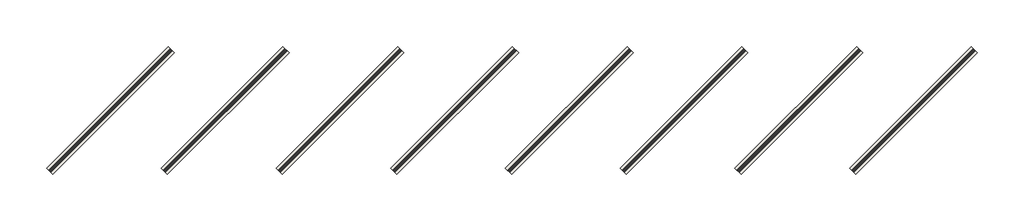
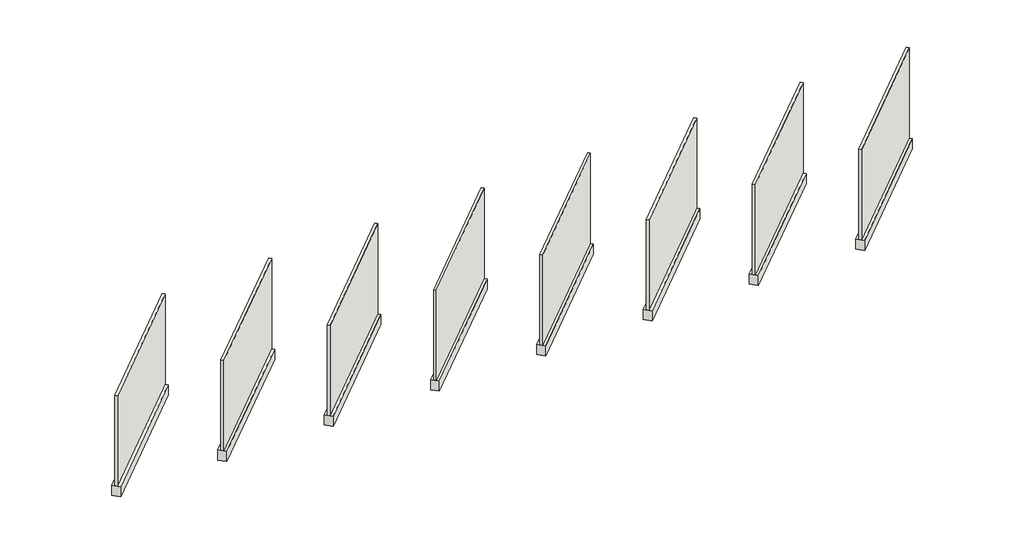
# One storey: 16 walls.
"""IFC4 building model written with IfcOpenShell, lengths in millimetres."""

from ifc_helpers import new_model, si_unit, frame, origin, origin_with_axes, place, context, project, spatial, polyline, outline, extrude, element, save

model = new_model("IFC4")

# Units and contexts
model_context = context("Model", 3, world=origin())
ifc_project = project(units=[si_unit("LENGTHUNIT", "METRE", prefix="MILLI")], contexts=[model_context])

# Site, building, storey
site = spatial("IfcSite", under=ifc_project)
building = spatial("IfcBuilding", under=site)
storey = spatial("IfcBuildingStorey", under=building, Name="Cobble Pioneer Stone", Elevation=0.0)

# Walls
placement = place(None, origin())
element("IfcWall", 1, ObjectType="Colorado_Cobble", at=placement, inside=storey, context=model_context, shape_type="SweptSolid", body=[
    extrude(outline(polyline([(-14638.5068952, 7411.09097), (-17871.3990988, 4178.1987664), (-17925.2806355, 4232.0803031), (-14692.388432, 7464.9725067), (-14638.5068952, 7411.09097)])), frame((0.0, 0.0, 304.8), z_axis=(0.0, 0.0, 1.0), x_axis=(1.0, 0.0, 0.0)), (0.0, 0.0, 1.0), 2743.2),
])
element("IfcWall", 2, ObjectType="Flatwood_Cobble", at=placement, inside=storey, context=model_context, shape_type="SweptSolid", body=[
    extrude(outline(polyline([(-11590.5068952, 7411.09097), (-14823.3990988, 4178.1987664), (-14877.2806355, 4232.0803031), (-11644.388432, 7464.9725067), (-11590.5068952, 7411.09097)])), frame((0.0, 0.0, 304.8), z_axis=(0.0, 0.0, 1.0), x_axis=(1.0, 0.0, 0.0)), (0.0, 0.0, 1.0), 2743.2),
])
element("IfcWall", 3, ObjectType="Mojave_Cobble", at=placement, inside=storey, context=model_context, shape_type="SweptSolid", body=[
    extrude(outline(polyline([(-8542.5068952, 7411.09097), (-11775.3990988, 4178.1987664), (-11829.2806355, 4232.0803031), (-8596.388432, 7464.9725067), (-8542.5068952, 7411.09097)])), frame((0.0, 0.0, 304.8), z_axis=(0.0, 0.0, 1.0), x_axis=(1.0, 0.0, 0.0)), (0.0, 0.0, 1.0), 2743.2),
])
element("IfcWall", 4, ObjectType="Nappanee_Cobble", at=placement, inside=storey, context=model_context, shape_type="SweptSolid", body=[
    extrude(outline(polyline([(-5494.5068952, 7411.09097), (-8727.3990988, 4178.1987664), (-8781.2806355, 4232.0803031), (-5548.388432, 7464.9725067), (-5494.5068952, 7411.09097)])), frame((0.0, 0.0, 304.8), z_axis=(0.0, 0.0, 1.0), x_axis=(1.0, 0.0, 0.0)), (0.0, 0.0, 1.0), 2743.2),
])
element("IfcWall", 5, ObjectType="Sedona_Cobble", at=placement, inside=storey, context=model_context, shape_type="SweptSolid", body=[
    extrude(outline(polyline([(-2446.5068952, 7411.09097), (-5679.3990988, 4178.1987664), (-5733.2806355, 4232.0803031), (-2500.388432, 7464.9725067), (-2446.5068952, 7411.09097)])), frame((0.0, 0.0, 304.8), z_axis=(0.0, 0.0, 1.0), x_axis=(1.0, 0.0, 0.0)), (0.0, 0.0, 1.0), 2743.2),
])
element("IfcWall", 6, ObjectType="Blue Ridge_Cobble", at=placement, inside=storey, context=model_context, shape_type="SweptSolid", body=[
    extrude(outline(polyline([(-20734.5068952, 7411.09097), (-23967.3990988, 4178.1987664), (-24021.2806355, 4232.0803031), (-20788.388432, 7464.9725067), (-20734.5068952, 7411.09097)])), frame((0.0, 0.0, 304.8), z_axis=(0.0, 0.0, 1.0), x_axis=(1.0, 0.0, 0.0)), (0.0, 0.0, 1.0), 2743.2),
])
element("IfcWall", 7, ObjectType="Canyon Creek_Cobble", at=placement, inside=storey, context=model_context, shape_type="SweptSolid", body=[
    extrude(outline(polyline([(-17686.5068952, 7411.09097), (-20919.3990988, 4178.1987664), (-20973.2806355, 4232.0803031), (-17740.388432, 7464.9725067), (-17686.5068952, 7411.09097)])), frame((0.0, 0.0, 304.8), z_axis=(0.0, 0.0, 1.0), x_axis=(1.0, 0.0, 0.0)), (0.0, 0.0, 1.0), 2743.2),
])
element("IfcWall", 8, ObjectType="Generic 9\"", at=placement, inside=storey, context=model_context, shape_type="SweptSolid", body=[
    extrude(outline(polyline([(-20680.6253585, 7357.2094332), (-23913.5175621, 4124.3172297), (-24075.1621723, 4285.9618398), (-20842.2699687, 7518.8540434), (-20680.6253585, 7357.2094332)])), origin_with_axes(), (0.0, 0.0, 1.0), 304.8),
])
element("IfcWall", 9, ObjectType="Generic 9\"", at=placement, inside=storey, context=model_context, shape_type="SweptSolid", body=[
    extrude(outline(polyline([(-17632.6253585, 7357.2094332), (-20865.5175621, 4124.3172297), (-21027.1621723, 4285.9618398), (-17794.2699687, 7518.8540434), (-17632.6253585, 7357.2094332)])), origin_with_axes(), (0.0, 0.0, 1.0), 304.8),
])
element("IfcWall", 10, ObjectType="Generic 9\"", at=placement, inside=storey, context=model_context, shape_type="SweptSolid", body=[
    extrude(outline(polyline([(-14584.6253585, 7357.2094332), (-17817.5175621, 4124.3172297), (-17979.1621723, 4285.9618398), (-14746.2699687, 7518.8540434), (-14584.6253585, 7357.2094332)])), origin_with_axes(), (0.0, 0.0, 1.0), 304.8),
])
element("IfcWall", 11, ObjectType="Generic 9\"", at=placement, inside=storey, context=model_context, shape_type="SweptSolid", body=[
    extrude(outline(polyline([(-11536.6253585, 7357.2094332), (-14769.5175621, 4124.3172297), (-14931.1621723, 4285.9618398), (-11698.2699687, 7518.8540434), (-11536.6253585, 7357.2094332)])), origin_with_axes(), (0.0, 0.0, 1.0), 304.8),
])
element("IfcWall", 12, ObjectType="Generic 9\"", at=placement, inside=storey, context=model_context, shape_type="SweptSolid", body=[
    extrude(outline(polyline([(-8488.6253585, 7357.2094332), (-11721.5175621, 4124.3172297), (-11883.1621723, 4285.9618398), (-8650.2699687, 7518.8540434), (-8488.6253585, 7357.2094332)])), origin_with_axes(), (0.0, 0.0, 1.0), 304.8),
])
element("IfcWall", 13, ObjectType="Generic 9\"", at=placement, inside=storey, context=model_context, shape_type="SweptSolid", body=[
    extrude(outline(polyline([(-5440.6253585, 7357.2094332), (-8673.5175621, 4124.3172297), (-8835.1621723, 4285.9618398), (-5602.2699687, 7518.8540434), (-5440.6253585, 7357.2094332)])), origin_with_axes(), (0.0, 0.0, 1.0), 304.8),
])
element("IfcWall", 14, ObjectType="Generic 9\"", at=placement, inside=storey, context=model_context, shape_type="SweptSolid", body=[
    extrude(outline(polyline([(-2392.6253585, 7357.2094332), (-5625.5175621, 4124.3172297), (-5787.1621723, 4285.9618398), (-2554.2699687, 7518.8540434), (-2392.6253585, 7357.2094332)])), origin_with_axes(), (0.0, 0.0, 1.0), 304.8),
])
element("IfcWall", 15, ObjectType="Generic 9\"", at=placement, inside=storey, context=model_context, shape_type="SweptSolid", body=[
    extrude(outline(polyline([(655.3746415, 7357.2094332), (-2577.5175621, 4124.3172297), (-2739.1621723, 4285.9618398), (493.7300313, 7518.8540434), (655.3746415, 7357.2094332)])), origin_with_axes(), (0.0, 0.0, 1.0), 304.8),
])
element("IfcWall", 16, ObjectType="Southern Limestone_Cobble", at=placement, inside=storey, context=model_context, shape_type="SweptSolid", body=[
    extrude(outline(polyline([(601.4931048, 7411.09097), (-2631.3990988, 4178.1987664), (-2685.2806355, 4232.0803031), (547.611568, 7464.9725067), (601.4931048, 7411.09097)])), frame((0.0, 0.0, 304.8), z_axis=(0.0, 0.0, 1.0), x_axis=(1.0, 0.0, 0.0)), (0.0, 0.0, 1.0), 2743.2),
])

save(model, "model.ifc")
